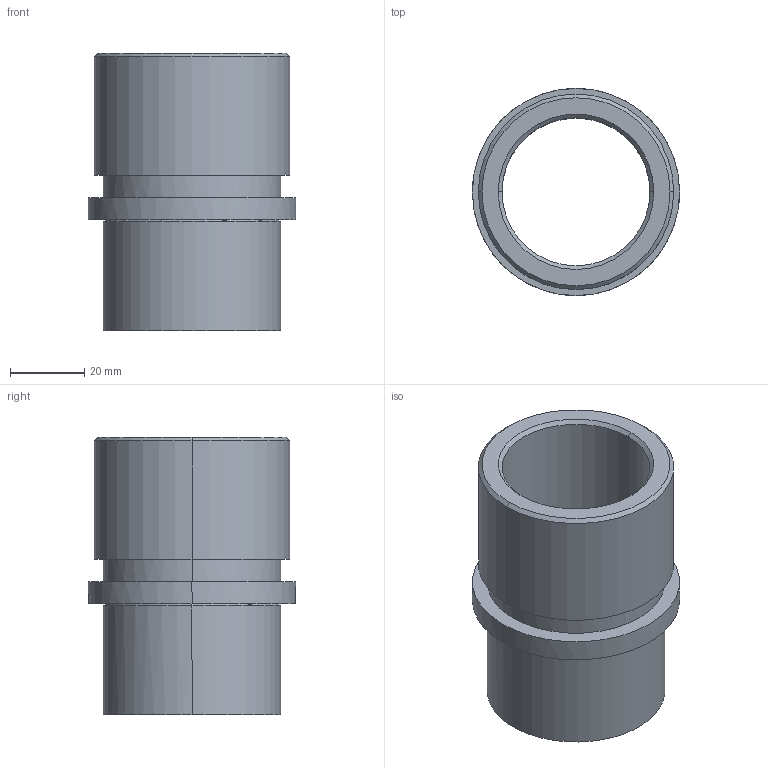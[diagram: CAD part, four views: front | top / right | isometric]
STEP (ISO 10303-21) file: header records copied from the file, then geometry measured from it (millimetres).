
FILE_DESCRIPTION(('CATIA V5 STEP Exchange'),'2;1');
FILE_NAME('C:\Users\Utente\Desktop\IO LAVORO\3D X SITO CF\X SITO\735\735-32.stp','2021-01-16T19:23:46+00:00',('none'),('none'),'CATIA Version 5 Release 20 GA (IN-10)','CATIA V5 STEP AP203','none');
FILE_SCHEMA(('CONFIG_CONTROL_DESIGN'));
Length unit declared in the file: millimetre
Products named in the file (1): 735-32
Assembly tree (1 placements, depth 2):
  735-32
    #58
Bounding box: 56 x 56 x 75 mm (x, y, z)
Volume: 57592.8 mm3; surface area: 24554.6 mm2
Topology: 1 solids, 1 shells, 25 faces, 50 edges, 30 vertices
Faces by surface type: cylinder 10, cone 6, plane 5, torus 4
Entity records: 851 total; most frequent: CARTESIAN_POINT 282, ORIENTED_EDGE 100, DIRECTION 96, AXIS2_PLACEMENT_3D 53, EDGE_CURVE 50, EDGE_LOOP 30, VERTEX_POINT 30, CIRCLE 26
